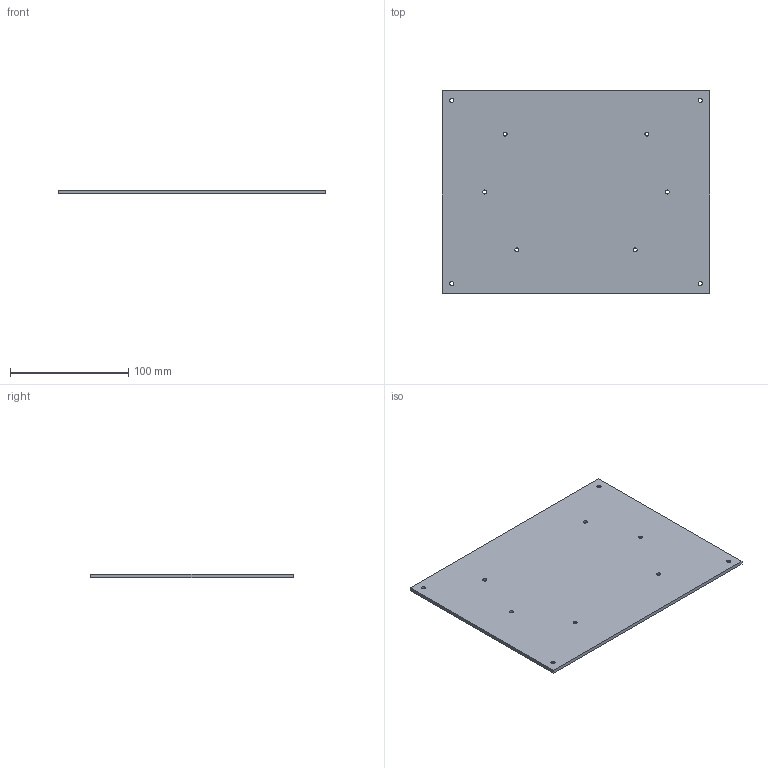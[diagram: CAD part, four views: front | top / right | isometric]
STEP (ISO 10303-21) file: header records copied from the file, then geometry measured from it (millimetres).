
FILE_DESCRIPTION(('Open CASCADE Model'),'2;1');
FILE_NAME('Open CASCADE Shape Model','2026-10-18T23:46:25',('Author'),( 'Open CASCADE'),'Open CASCADE STEP processor 7.9','Open CASCADE 7.9' ,'Unknown');
FILE_SCHEMA(('AUTOMOTIVE_DESIGN { 1 0 10303 214 1 1 1 1 }'));
Length unit declared in the file: millimetre
Products named in the file (1): Open CASCADE STEP translator 7.9 2
Bounding box: 226 x 171 x 3 mm (x, y, z)
Volume: 115498.3 mm3; surface area: 79747.1 mm2
Topology: 1 solids, 1 shells, 26 faces, 62 edges, 38 vertices
Faces by surface type: cylinder 10, cone 10, plane 6
Full cylindrical faces by diameter (mm): 3.4 x10
Entity records: 1612 total; most frequent: DIRECTION 270, CARTESIAN_POINT 251, LINE 136, VECTOR 136, ORIENTED_EDGE 124, PCURVE 124, DEFINITIONAL_REPRESENTATION 124, EDGE_CURVE 62
